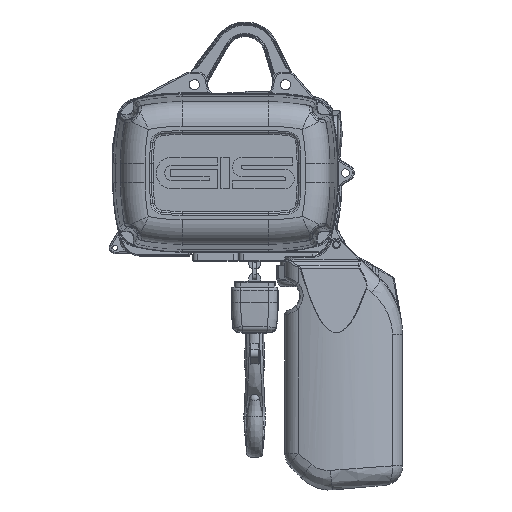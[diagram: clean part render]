
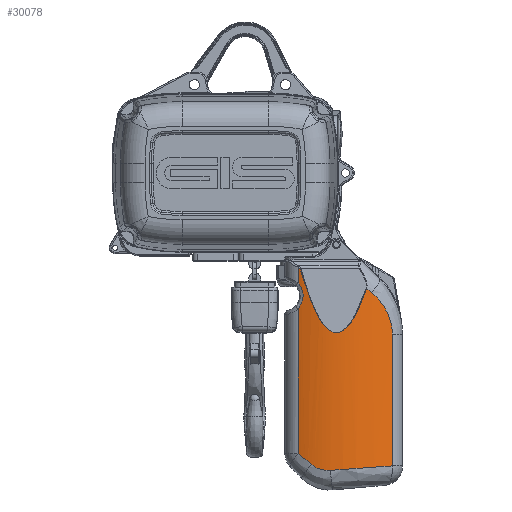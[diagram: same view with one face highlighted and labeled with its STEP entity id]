
A CAD part, front view. The second image highlights one B-rep face of the part: STEP entity #30078.
In plain terms, the highlighted cylindrical face has radius 120 mm (diameter 240 mm), a partial arc.
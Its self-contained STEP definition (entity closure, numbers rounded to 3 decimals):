
#543=ELLIPSE('',#33446,1354.074,120.);
#546=ELLIPSE('',#33463,156.205,120.);
#547=ELLIPSE('',#33466,156.205,120.);
#548=ELLIPSE('',#33467,120.319,120.);
#1992=B_SPLINE_CURVE_WITH_KNOTS('',3,(#84683,#84684,#84685,#84686,#84687,
#84688,#84689),.UNSPECIFIED.,.F.,.F.,(4,1,1,1,4),(-2.876,-2.054,
-1.643,-0.822,0.),.UNSPECIFIED.);
#2015=B_SPLINE_CURVE_WITH_KNOTS('',3,(#85438,#85439,#85440,#85441,#85442,
#85443),.UNSPECIFIED.,.F.,.F.,(4,1,1,4),(0.,0.129,0.215,
0.302),.UNSPECIFIED.);
#2018=B_SPLINE_CURVE_WITH_KNOTS('',3,(#85568,#85569,#85570,#85571,#85572,
#85573,#85574),.UNSPECIFIED.,.F.,.F.,(4,1,1,1,4),(0.,0.5,
1.001,1.251,1.751),.UNSPECIFIED.);
#2019=B_SPLINE_CURVE_WITH_KNOTS('',3,(#85579,#85580,#85581,#85582,#85583,
#85584,#85585,#85586,#85587,#85588,#85589,#85590,#85591,#85592,#85593,#85594,
#85595,#85596,#85597),.UNSPECIFIED.,.F.,.F.,(4,3,3,3,3,3,4),(0.,0.681,
1.361,2.382,2.722,4.084,4.764),
 .UNSPECIFIED.);
#4563=FACE_OUTER_BOUND('',#6444,.T.);
#6444=EDGE_LOOP('',(#26342,#26343,#26344,#26345,#26346,#26347,#26348,#26349,
#26350,#26351,#26352));
#7619=LINE('',#84734,#8820);
#7652=LINE('',#85564,#8853);
#7653=LINE('',#85578,#8854);
#8820=VECTOR('',#41203,16.121);
#8853=VECTOR('',#41424,147.514);
#8854=VECTOR('',#41429,134.23);
#13242=VERTEX_POINT('',#84637);
#13243=VERTEX_POINT('',#84681);
#13244=VERTEX_POINT('',#84733);
#13296=VERTEX_POINT('',#85351);
#13298=VERTEX_POINT('',#85402);
#13304=VERTEX_POINT('',#85559);
#13305=VERTEX_POINT('',#85563);
#13306=VERTEX_POINT('',#85565);
#13307=VERTEX_POINT('',#85567);
#13308=VERTEX_POINT('',#85575);
#13309=VERTEX_POINT('',#85577);
#17537=EDGE_CURVE('',#13243,#13242,#1992,.T.);
#17539=EDGE_CURVE('',#13242,#13244,#7619,.T.);
#17635=EDGE_CURVE('',#13298,#13296,#543,.T.);
#17639=EDGE_CURVE('',#13244,#13298,#2015,.T.);
#17653=EDGE_CURVE('',#13296,#13304,#546,.T.);
#17655=EDGE_CURVE('',#13305,#13243,#7652,.T.);
#17656=EDGE_CURVE('',#13306,#13305,#547,.T.);
#17657=EDGE_CURVE('',#13307,#13306,#2018,.T.);
#17658=EDGE_CURVE('',#13308,#13307,#548,.T.);
#17659=EDGE_CURVE('',#13309,#13308,#7653,.T.);
#17660=EDGE_CURVE('',#13304,#13309,#2019,.T.);
#26342=ORIENTED_EDGE('',*,*,#17537,.F.);
#26343=ORIENTED_EDGE('',*,*,#17655,.F.);
#26344=ORIENTED_EDGE('',*,*,#17656,.F.);
#26345=ORIENTED_EDGE('',*,*,#17657,.F.);
#26346=ORIENTED_EDGE('',*,*,#17658,.F.);
#26347=ORIENTED_EDGE('',*,*,#17659,.F.);
#26348=ORIENTED_EDGE('',*,*,#17660,.F.);
#26349=ORIENTED_EDGE('',*,*,#17653,.F.);
#26350=ORIENTED_EDGE('',*,*,#17635,.F.);
#26351=ORIENTED_EDGE('',*,*,#17639,.F.);
#26352=ORIENTED_EDGE('',*,*,#17539,.F.);
#26846=CYLINDRICAL_SURFACE('',#33465,120.);
#30078=ADVANCED_FACE('',(#4563),#26846,.T.);
#33446=AXIS2_PLACEMENT_3D('',#85404,#41379,#41380);
#33463=AXIS2_PLACEMENT_3D('',#85560,#41418,#41419);
#33465=AXIS2_PLACEMENT_3D('',#85562,#41422,#41423);
#33466=AXIS2_PLACEMENT_3D('',#85566,#41425,#41426);
#33467=AXIS2_PLACEMENT_3D('',#85576,#41427,#41428);
#41203=DIRECTION('',(0.,0.,1.));
#41379=DIRECTION('center_axis',(0.,-0.996,
0.089));
#41380=DIRECTION('ref_axis',(0.,-0.089,-0.996));
#41418=DIRECTION('center_axis',(0.64,0.,
0.768));
#41419=DIRECTION('ref_axis',(0.768,0.,-0.64));
#41422=DIRECTION('center_axis',(0.,0.,
1.));
#41423=DIRECTION('ref_axis',(-0.438,-0.899,0.));
#41424=DIRECTION('',(0.,0.,1.));
#41425=DIRECTION('center_axis',(-0.64,0.,
-0.768));
#41426=DIRECTION('ref_axis',(-0.768,0.,0.64));
#41427=DIRECTION('center_axis',(0.073,0.,
-0.997));
#41428=DIRECTION('ref_axis',(0.997,0.,0.073));
#41429=DIRECTION('',(0.,0.,-1.));
#84637=CARTESIAN_POINT('',(53.8,-72.986,-251.109));
#84681=CARTESIAN_POINT('',(53.8,-72.986,-277.28));
#84683=CARTESIAN_POINT('Ctrl Pts',(53.8,-72.986,-277.28));
#84684=CARTESIAN_POINT('Ctrl Pts',(55.624,-73.613,-275.26));
#84685=CARTESIAN_POINT('Ctrl Pts',(57.751,-74.273,-271.645));
#84686=CARTESIAN_POINT('Ctrl Pts',(59.218,-74.705,-264.914));
#84687=CARTESIAN_POINT('Ctrl Pts',(58.468,-74.492,-257.951));
#84688=CARTESIAN_POINT('Ctrl Pts',(55.624,-73.613,-253.13));
#84689=CARTESIAN_POINT('Ctrl Pts',(53.8,-72.986,-251.109));
#84733=CARTESIAN_POINT('',(53.8,-72.986,-234.988));
#84734=CARTESIAN_POINT('',(53.8,-72.986,-492.195));
#85351=CARTESIAN_POINT('',(123.6,-75.48,-256.6));
#85402=CARTESIAN_POINT('',(56.01,-73.721,-236.831));
#85404=CARTESIAN_POINT('Origin',(92.8,40.5,1046.964));
#85438=CARTESIAN_POINT('Ctrl Pts',(53.8,-72.986,-234.988));
#85439=CARTESIAN_POINT('Ctrl Pts',(54.182,-73.117,-235.154));
#85440=CARTESIAN_POINT('Ctrl Pts',(54.811,-73.33,-235.474));
#85441=CARTESIAN_POINT('Ctrl Pts',(55.595,-73.587,-236.075));
#85442=CARTESIAN_POINT('Ctrl Pts',(55.933,-73.697,-236.555));
#85443=CARTESIAN_POINT('Ctrl Pts',(56.01,-73.721,-236.831));
#85559=CARTESIAN_POINT('',(128.712,-74.,-260.86));
#85560=CARTESIAN_POINT('Origin',(92.8,40.5,-230.933));
#85562=CARTESIAN_POINT('Origin',(92.8,40.5,-492.195));
#85563=CARTESIAN_POINT('',(53.8,-72.986,-424.795));
#85564=CARTESIAN_POINT('',(53.8,-72.986,-492.195));
#85565=CARTESIAN_POINT('',(67.648,-76.834,-436.334));
#85566=CARTESIAN_POINT('Origin',(92.8,40.5,-457.295));
#85567=CARTESIAN_POINT('',(86.71,-79.345,-442.116));
#85568=CARTESIAN_POINT('Ctrl Pts',(86.71,-79.345,-442.116));
#85569=CARTESIAN_POINT('Ctrl Pts',(84.718,-79.244,-442.261));
#85570=CARTESIAN_POINT('Ctrl Pts',(80.681,-78.937,-442.132));
#85571=CARTESIAN_POINT('Ctrl Pts',(75.878,-78.326,-440.947));
#85572=CARTESIAN_POINT('Ctrl Pts',(71.438,-77.606,-439.05));
#85573=CARTESIAN_POINT('Ctrl Pts',(69.047,-77.134,-437.501));
#85574=CARTESIAN_POINT('Ctrl Pts',(67.648,-76.834,-436.334));
#85575=CARTESIAN_POINT('',(149.8,-65.098,-437.516));
#85576=CARTESIAN_POINT('Origin',(92.8,40.5,-441.672));
#85577=CARTESIAN_POINT('',(149.8,-65.098,-303.286));
#85578=CARTESIAN_POINT('',(149.8,-65.098,-492.195));
#85579=CARTESIAN_POINT('Ctrl Pts',(128.712,-74.,-260.86));
#85580=CARTESIAN_POINT('Ctrl Pts',(130.591,-73.411,-262.426));
#85581=CARTESIAN_POINT('Ctrl Pts',(132.371,-72.802,-264.084));
#85582=CARTESIAN_POINT('Ctrl Pts',(134.032,-72.194,-265.815));
#85583=CARTESIAN_POINT('Ctrl Pts',(135.694,-71.586,-267.546));
#85584=CARTESIAN_POINT('Ctrl Pts',(137.238,-70.979,-269.35));
#85585=CARTESIAN_POINT('Ctrl Pts',(138.661,-70.391,-271.227));
#85586=CARTESIAN_POINT('Ctrl Pts',(140.796,-69.508,-274.041));
#85587=CARTESIAN_POINT('Ctrl Pts',(142.657,-68.666,-277.018));
#85588=CARTESIAN_POINT('Ctrl Pts',(144.212,-67.929,-280.109));
#85589=CARTESIAN_POINT('Ctrl Pts',(144.73,-67.683,-281.139));
#85590=CARTESIAN_POINT('Ctrl Pts',(145.214,-67.449,-282.182));
#85591=CARTESIAN_POINT('Ctrl Pts',(145.663,-67.229,-283.239));
#85592=CARTESIAN_POINT('Ctrl Pts',(147.462,-66.346,-287.469));
#85593=CARTESIAN_POINT('Ctrl Pts',(148.712,-65.681,-291.934));
#85594=CARTESIAN_POINT('Ctrl Pts',(149.334,-65.348,-296.467));
#85595=CARTESIAN_POINT('Ctrl Pts',(149.646,-65.182,-298.734));
#85596=CARTESIAN_POINT('Ctrl Pts',(149.8,-65.098,-301.017));
#85597=CARTESIAN_POINT('Ctrl Pts',(149.8,-65.098,-303.286));
